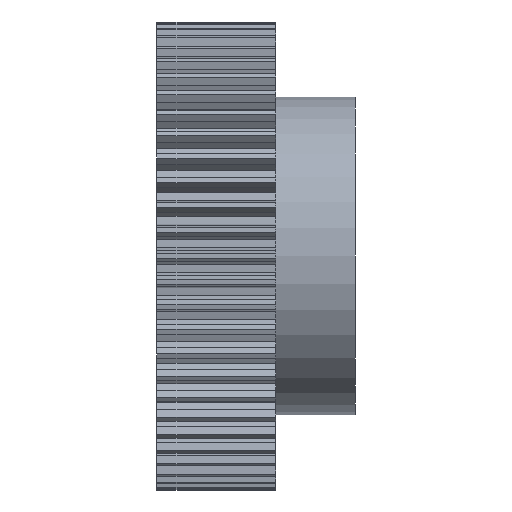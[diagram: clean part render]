
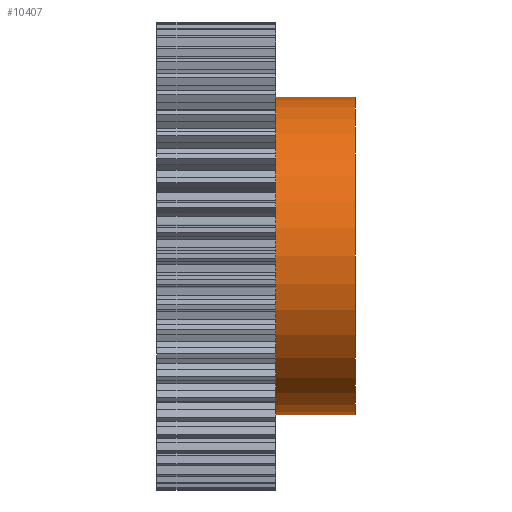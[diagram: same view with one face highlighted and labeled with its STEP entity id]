
A CAD part, front view. The second image highlights one B-rep face of the part: STEP entity #10407.
In plain terms, the highlighted cylindrical face has radius 20 mm (diameter 40 mm), a partial arc.
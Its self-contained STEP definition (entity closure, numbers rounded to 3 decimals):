
#1033 = VERTEX_POINT ( 'NONE', #3255 ) ;
#1562 = VERTEX_POINT ( 'NONE', #4114 ) ;
#1567 = EDGE_CURVE ( 'NONE', #11372, #1562, #4168, .T. ) ;
#3255 = CARTESIAN_POINT ( 'NONE',  ( 7.5, 0., -20. ) ) ;
#4114 = CARTESIAN_POINT ( 'NONE',  ( 7.5, 0., 20. ) ) ;
#4161 = DIRECTION ( 'NONE',  ( -1., 0., 0. ) ) ;
#4162 = VECTOR ( 'NONE', #4161, 1000. ) ;
#4163 = CARTESIAN_POINT ( 'NONE',  ( 7.5, 0., 20. ) ) ;
#4168 = LINE ( 'NONE', #4163, #4162 ) ;
#5561 = DIRECTION ( 'NONE',  ( 0., 0., 1. ) ) ;
#5562 = DIRECTION ( 'NONE',  ( -1., 0., 0. ) ) ;
#5563 = CARTESIAN_POINT ( 'NONE',  ( 17.5, 0., 0. ) ) ;
#5566 = AXIS2_PLACEMENT_3D ( 'NONE', #5563, #5562, #5561 ) ;
#5572 = CIRCLE ( 'NONE', #5566, 20. ) ;
#5905 = CARTESIAN_POINT ( 'NONE',  ( 7.5, 0., 0. ) ) ;
#5912 = AXIS2_PLACEMENT_3D ( 'NONE', #5905, #5955, #5954 ) ;
#5954 = DIRECTION ( 'NONE',  ( 0., 0., 1. ) ) ;
#5955 = DIRECTION ( 'NONE',  ( 1., 0., 0. ) ) ;
#5968 = CIRCLE ( 'NONE', #5912, 20. ) ;
#6949 = DIRECTION ( 'NONE',  ( 0., 0., 1. ) ) ;
#6951 = DIRECTION ( 'NONE',  ( -1., 0., 0. ) ) ;
#6954 = CARTESIAN_POINT ( 'NONE',  ( 7.5, 0., 0. ) ) ;
#6959 = CYLINDRICAL_SURFACE ( 'NONE', #6971, 20. ) ;
#6966 = FACE_OUTER_BOUND ( 'NONE', #11121, .T. ) ;
#6971 = AXIS2_PLACEMENT_3D ( 'NONE', #6954, #6951, #6949 ) ;
#7673 = DIRECTION ( 'NONE',  ( -1., 0., 0. ) ) ;
#7674 = VECTOR ( 'NONE', #7673, 1000. ) ;
#7675 = CARTESIAN_POINT ( 'NONE',  ( 7.5, 0., -20. ) ) ;
#7677 = LINE ( 'NONE', #7675, #7674 ) ;
#8689 = CARTESIAN_POINT ( 'NONE',  ( 17.5, 0., -20. ) ) ;
#8693 = CARTESIAN_POINT ( 'NONE',  ( 17.5, 0., 20. ) ) ;
#9673 = EDGE_CURVE ( 'NONE', #11365, #11372, #5572, .T. ) ;
#9847 = EDGE_CURVE ( 'NONE', #1562, #1033, #5968, .T. ) ;
#10295 = ORIENTED_EDGE ( 'NONE', *, *, #1567, .T. ) ;
#10407 = ADVANCED_FACE ( 'NONE', ( #6966 ), #6959, .T. ) ;
#10463 = ORIENTED_EDGE ( 'NONE', *, *, #10774, .F. ) ;
#10474 = ORIENTED_EDGE ( 'NONE', *, *, #9673, .T. ) ;
#10774 = EDGE_CURVE ( 'NONE', #11365, #1033, #7677, .T. ) ;
#11095 = ORIENTED_EDGE ( 'NONE', *, *, #9847, .T. ) ;
#11121 = EDGE_LOOP ( 'NONE', ( #10463, #10474, #10295, #11095 ) ) ;
#11365 = VERTEX_POINT ( 'NONE', #8689 ) ;
#11372 = VERTEX_POINT ( 'NONE', #8693 ) ;
